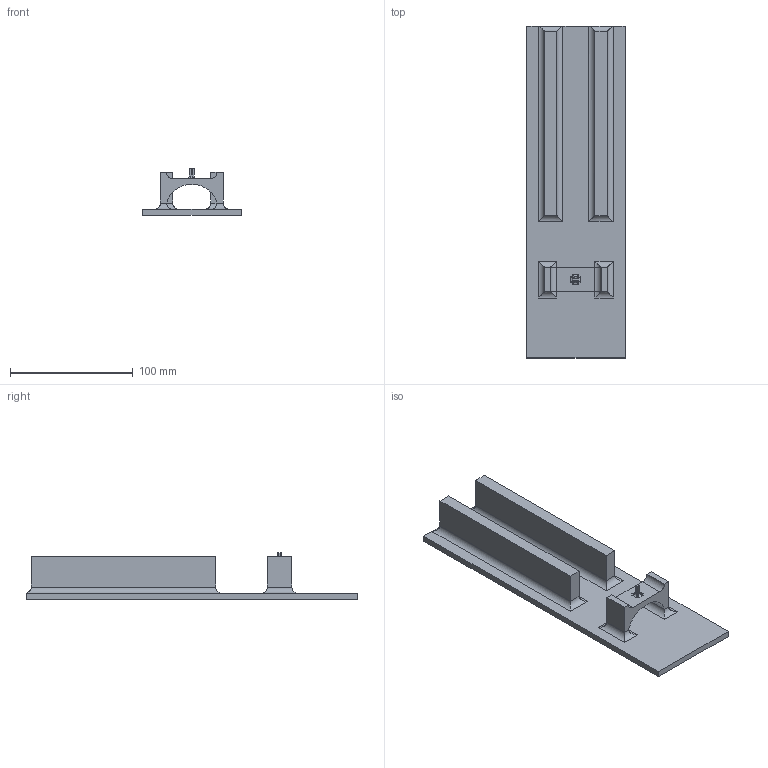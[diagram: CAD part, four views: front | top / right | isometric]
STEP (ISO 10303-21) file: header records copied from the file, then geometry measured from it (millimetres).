
FILE_DESCRIPTION(/* description */ (''),/* implementation_level */ '2;1');
FILE_NAME(/* name */ 'keycaps_machine_full.step',/* time_stamp */ '2023-05-14T21:40:25+02:00',/* author */ (''),/* organization */ (''),/* preprocessor_version */ 'ST-DEVELOPER v19.2',/* originating_system */ 'Autodesk Translation Framework v12.4.0.73',/* authorisation */ '');
FILE_SCHEMA (('AUTOMOTIVE_DESIGN { 1 0 10303 214 3 1 1 }'));
Length unit declared in the file: millimetre
Products named in the file (1): keycaps_machine
Bounding box: 80 x 270 x 38 mm (x, y, z)
Volume: 215555.8 mm3; surface area: 69251.4 mm2
Topology: 1 solids, 1 shells, 73 faces, 182 edges, 112 vertices
Faces by surface type: plane 37, cylinder 36
Entity records: 2222 total; most frequent: CARTESIAN_POINT 436, DIRECTION 370, ORIENTED_EDGE 364, EDGE_CURVE 182, LINE 134, VECTOR 134, AXIS2_PLACEMENT_3D 118, VERTEX_POINT 112
